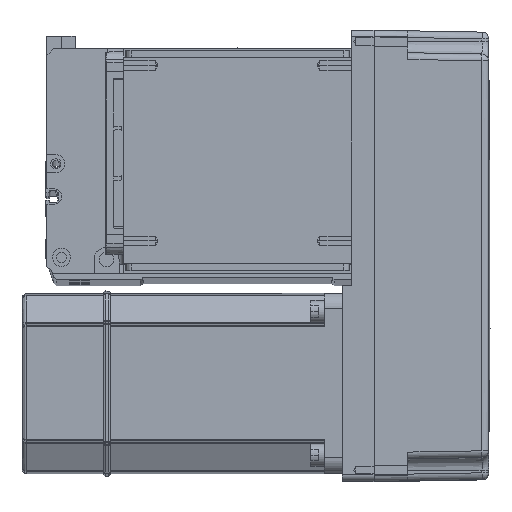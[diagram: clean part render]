
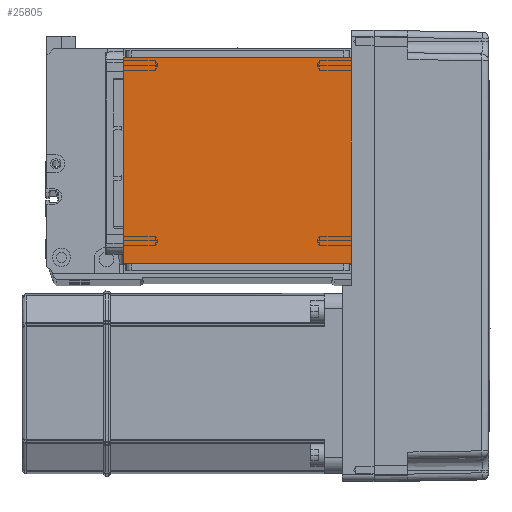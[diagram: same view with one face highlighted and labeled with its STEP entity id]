
A CAD part, top view. The second image highlights one B-rep face of the part: STEP entity #25805.
In plain terms, the highlighted planar face has unit normal (0, 0, 1).
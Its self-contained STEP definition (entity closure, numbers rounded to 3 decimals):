
#1371 = VECTOR ( 'NONE', #28609, 1000. ) ;
#1719 = EDGE_CURVE ( 'NONE', #44528, #46297, #14471, .T. ) ;
#2923 = ORIENTED_EDGE ( 'NONE', *, *, #37767, .F. ) ;
#3231 = DIRECTION ( 'NONE',  ( 1., 0., 0. ) ) ;
#3468 = LINE ( 'NONE', #50767, #50115 ) ;
#9656 = DIRECTION ( 'NONE',  ( -1., 0., 0. ) ) ;
#11623 = VECTOR ( 'NONE', #59362, 1000. ) ;
#14285 = CARTESIAN_POINT ( 'NONE',  ( 50.5, 20., 115. ) ) ;
#14471 = LINE ( 'NONE', #47451, #1371 ) ;
#16922 = VERTEX_POINT ( 'NONE', #20875 ) ;
#17367 = CARTESIAN_POINT ( 'NONE',  ( -50.5, 122., 115. ) ) ;
#20875 = CARTESIAN_POINT ( 'NONE',  ( -50.5, 111.5, 115. ) ) ;
#21285 = AXIS2_PLACEMENT_3D ( 'NONE', #40356, #22628, #3231 ) ;
#22486 = FACE_OUTER_BOUND ( 'NONE', #34824, .T. ) ;
#22628 = DIRECTION ( 'NONE',  ( 0., 0., 1. ) ) ;
#23308 = DIRECTION ( 'NONE',  ( 1., 0., 0. ) ) ;
#25805 = ADVANCED_FACE ( 'NONE', ( #22486 ), #26526, .T. ) ;
#26526 = PLANE ( 'NONE',  #21285 ) ;
#27800 = ORIENTED_EDGE ( 'NONE', *, *, #42888, .T. ) ;
#28609 = DIRECTION ( 'NONE',  ( 0., 1., 0. ) ) ;
#28996 = LINE ( 'NONE', #43062, #39204 ) ;
#34824 = EDGE_LOOP ( 'NONE', ( #2923, #27800, #49233, #37028 ) ) ;
#37028 = ORIENTED_EDGE ( 'NONE', *, *, #1719, .T. ) ;
#37403 = CARTESIAN_POINT ( 'NONE',  ( 50.5, 111.5, 115. ) ) ;
#37767 = EDGE_CURVE ( 'NONE', #16922, #46297, #3468, .T. ) ;
#39204 = VECTOR ( 'NONE', #9656, 1000. ) ;
#40356 = CARTESIAN_POINT ( 'NONE',  ( 0., 0., 115. ) ) ;
#40519 = VERTEX_POINT ( 'NONE', #58714 ) ;
#42888 = EDGE_CURVE ( 'NONE', #16922, #40519, #53895, .T. ) ;
#43062 = CARTESIAN_POINT ( 'NONE',  ( -70.004, 20., 115. ) ) ;
#44074 = EDGE_CURVE ( 'NONE', #44528, #40519, #28996, .T. ) ;
#44528 = VERTEX_POINT ( 'NONE', #14285 ) ;
#46297 = VERTEX_POINT ( 'NONE', #37403 ) ;
#47451 = CARTESIAN_POINT ( 'NONE',  ( 50.5, 122., 115. ) ) ;
#49233 = ORIENTED_EDGE ( 'NONE', *, *, #44074, .F. ) ;
#50115 = VECTOR ( 'NONE', #23308, 1000. ) ;
#50767 = CARTESIAN_POINT ( 'NONE',  ( -70.004, 111.5, 115. ) ) ;
#53895 = LINE ( 'NONE', #17367, #11623 ) ;
#58714 = CARTESIAN_POINT ( 'NONE',  ( -50.5, 20., 115. ) ) ;
#59362 = DIRECTION ( 'NONE',  ( 0., -1., 0. ) ) ;
